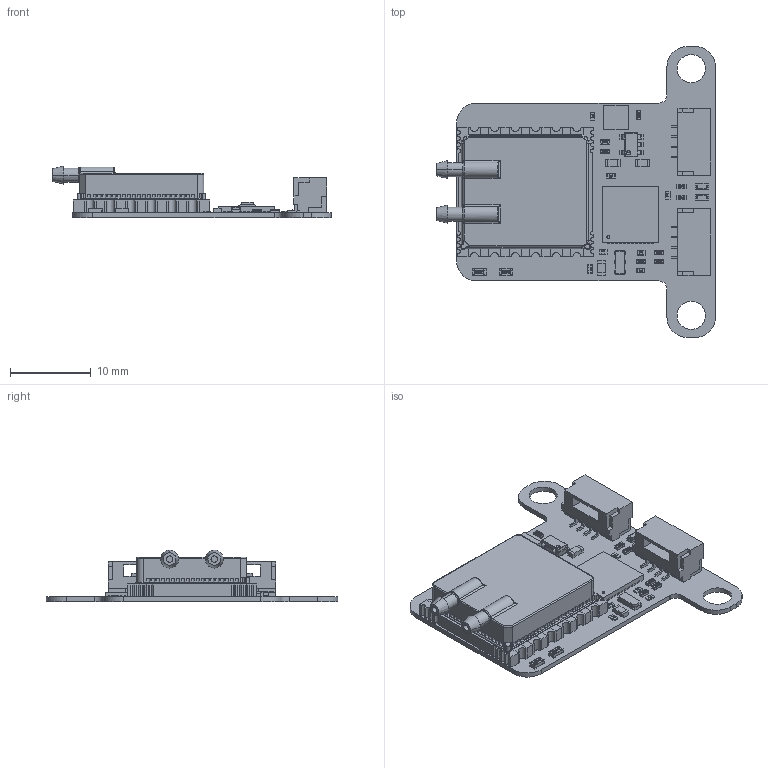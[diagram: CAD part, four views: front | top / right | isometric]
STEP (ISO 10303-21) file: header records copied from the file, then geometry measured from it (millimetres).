
FILE_DESCRIPTION(('Open CASCADE Model'),'2;1');
FILE_NAME('Open CASCADE Shape Model','2025-08-08T13:46:46',('Author'),( 'Open CASCADE'),'Open CASCADE STEP processor 7.5','Open CASCADE 7.5' ,'Unknown');
FILE_SCHEMA(('AUTOMOTIVE_DESIGN { 1 0 10303 214 1 1 1 1 }'));
Length unit declared in the file: millimetre
Products named in the file (53): Open CASCADE STEP translator 7.5 1; Open CASCADE STEP translator 7.5 2; Open CASCADE STEP translator 7.5 3; Open CASCADE STEP translator 7.5 4; Open CASCADE STEP translator 7.5 5; Open CASCADE STEP translator 7.5 6; Open CASCADE STEP translator 7.5 7; Open CASCADE STEP translator 7.5 8; Open CASCADE STEP translator 7.5 9; Open CASCADE STEP translator 7.5 10; Open CASCADE STEP translator 7.5 11; Open CASCADE STEP translator 7.5 12; Open CASCADE STEP translator 7.5 13; Open CASCADE STEP translator 7.5 14; Open CASCADE STEP translator 7.5 15; Open CASCADE STEP translator 7.5 16; Open CASCADE STEP translator 7.5 17; Open CASCADE STEP translator 7.5 18; Open CASCADE STEP translator 7.5 19; Open CASCADE STEP translator 7.5 20; Open CASCADE STEP translator 7.5 21; Open CASCADE STEP translator 7.5 22; Open CASCADE STEP translator 7.5 23; Open CASCADE STEP translator 7.5 24; Open CASCADE STEP translator 7.5 25; Open CASCADE STEP translator 7.5 26; Open CASCADE STEP translator 7.5 27; Open CASCADE STEP translator 7.5 28; Open CASCADE STEP translator 7.5 29; Open CASCADE STEP translator 7.5 30; Open CASCADE STEP translator 7.5 31; Open CASCADE STEP translator 7.5 32; Open CASCADE STEP translator 7.5 33; Open CASCADE STEP translator 7.5 34; Open CASCADE STEP translator 7.5 35; Open CASCADE STEP translator 7.5 36; Open CASCADE STEP translator 7.5 37; Open CASCADE STEP translator 7.5 38; Open CASCADE STEP translator 7.5 39; Open CASCADE STEP translator 7.5 40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
Bounding box: 34.49 x 36 x 6.42 mm (x, y, z)
Volume: 1448.8 mm3; surface area: 4139.6 mm2
Topology: 83 solids, 83 shells, 3221 faces, 8408 edges, 5418 vertices
Faces by surface type: plane 2104, cylinder 578, bspline 423, sphere 74, torus 26, cone 16
Full cylindrical faces by diameter (mm): 3.5 x2
Entity records: 136990 total; most frequent: CARTESIAN_POINT 47375, ORIENTED_EDGE 16680, DIRECTION 14235, EDGE_CURVE 8340, LINE 6295, VECTOR 6295, VERTEX_POINT 5418, AXIS2_PLACEMENT_3D 3970
